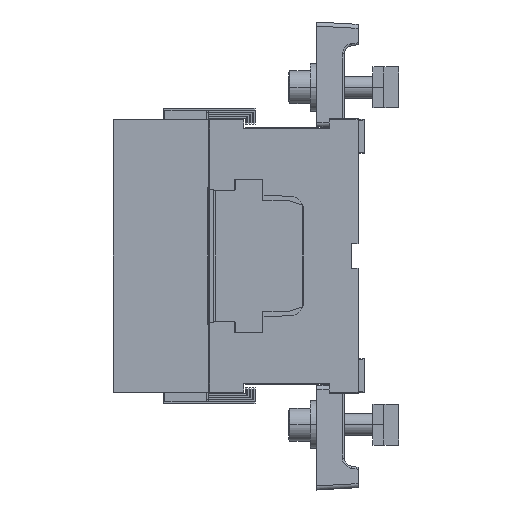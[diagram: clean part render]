
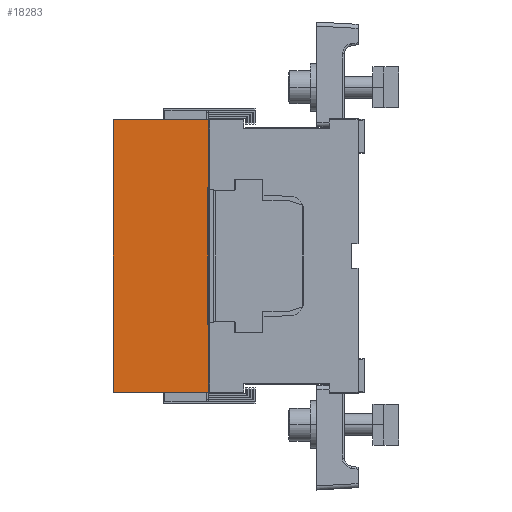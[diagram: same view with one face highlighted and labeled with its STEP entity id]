
A CAD part, left-side view. The second image highlights one B-rep face of the part: STEP entity #18283.
In plain terms, the highlighted planar face has unit normal (-1, 0, 0).
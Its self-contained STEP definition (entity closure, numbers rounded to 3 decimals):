
#401 = ORIENTED_EDGE ( 'NONE', *, *, #37491, .F. ) ;
#1191 = LINE ( 'NONE', #1543, #45969 ) ;
#1543 = CARTESIAN_POINT ( 'NONE',  ( -51., -8., 50. ) ) ;
#1614 = LINE ( 'NONE', #11810, #41466 ) ;
#2211 = VERTEX_POINT ( 'NONE', #35641 ) ;
#3841 = LINE ( 'NONE', #8567, #55009 ) ;
#6344 = LINE ( 'NONE', #28865, #18148 ) ;
#8567 = CARTESIAN_POINT ( 'NONE',  ( -51., 0., 100. ) ) ;
#10106 = EDGE_CURVE ( 'NONE', #2211, #45796, #53214, .T. ) ;
#10736 = EDGE_CURVE ( 'NONE', #48896, #45796, #26513, .T. ) ;
#11810 = CARTESIAN_POINT ( 'NONE',  ( -51., -8., -50. ) ) ;
#11828 = AXIS2_PLACEMENT_3D ( 'NONE', #31290, #25832, #49752 ) ;
#12073 = DIRECTION ( 'NONE',  ( 0., -1., 0. ) ) ;
#13680 = LINE ( 'NONE', #63780, #40100 ) ;
#14574 = EDGE_CURVE ( 'NONE', #48896, #43888, #1614, .T. ) ;
#14754 = DIRECTION ( 'NONE',  ( 0., 0., 1. ) ) ;
#14879 = CARTESIAN_POINT ( 'NONE',  ( -51., 70., 100. ) ) ;
#15316 = ORIENTED_EDGE ( 'NONE', *, *, #10736, .F. ) ;
#18148 = VECTOR ( 'NONE', #40800, 1000. ) ;
#18283 = ADVANCED_FACE ( 'NONE', ( #47603 ), #69755, .F. ) ;
#19995 = DIRECTION ( 'NONE',  ( 0., 0., -1. ) ) ;
#20650 = CARTESIAN_POINT ( 'NONE',  ( -51., 0., -50. ) ) ;
#21590 = DIRECTION ( 'NONE',  ( 0., -1., 0. ) ) ;
#24202 = ORIENTED_EDGE ( 'NONE', *, *, #46839, .F. ) ;
#25832 = DIRECTION ( 'NONE',  ( 1., 0., 0. ) ) ;
#26513 = LINE ( 'NONE', #54093, #35780 ) ;
#26776 = ORIENTED_EDGE ( 'NONE', *, *, #10106, .T. ) ;
#28299 = ORIENTED_EDGE ( 'NONE', *, *, #14574, .T. ) ;
#28751 = VECTOR ( 'NONE', #21590, 1000. ) ;
#28865 = CARTESIAN_POINT ( 'NONE',  ( -51., 0., 100. ) ) ;
#31290 = CARTESIAN_POINT ( 'NONE',  ( -51., 0., 100. ) ) ;
#34802 = CARTESIAN_POINT ( 'NONE',  ( -51., 70., 100. ) ) ;
#35641 = CARTESIAN_POINT ( 'NONE',  ( -51., 70., -100. ) ) ;
#35780 = VECTOR ( 'NONE', #70816, 1000. ) ;
#37491 = EDGE_CURVE ( 'NONE', #54132, #61486, #6344, .T. ) ;
#37693 = LINE ( 'NONE', #14879, #51788 ) ;
#37776 = EDGE_CURVE ( 'NONE', #55589, #52465, #1191, .T. ) ;
#39166 = ORIENTED_EDGE ( 'NONE', *, *, #48001, .T. ) ;
#39720 = CARTESIAN_POINT ( 'NONE',  ( -51., 0.3, 50. ) ) ;
#40100 = VECTOR ( 'NONE', #14754, 1000. ) ;
#40545 = CARTESIAN_POINT ( 'NONE',  ( -51., 0., -100. ) ) ;
#40800 = DIRECTION ( 'NONE',  ( 0., -1., 0. ) ) ;
#41466 = VECTOR ( 'NONE', #46579, 1000. ) ;
#43510 = ORIENTED_EDGE ( 'NONE', *, *, #37776, .T. ) ;
#43888 = VERTEX_POINT ( 'NONE', #53505 ) ;
#45796 = VERTEX_POINT ( 'NONE', #40545 ) ;
#45969 = VECTOR ( 'NONE', #12073, 1000. ) ;
#46579 = DIRECTION ( 'NONE',  ( 0., 1., 0. ) ) ;
#46839 = EDGE_CURVE ( 'NONE', #61486, #52465, #3841, .T. ) ;
#47603 = FACE_OUTER_BOUND ( 'NONE', #59523, .T. ) ;
#48001 = EDGE_CURVE ( 'NONE', #43888, #55589, #13680, .T. ) ;
#48896 = VERTEX_POINT ( 'NONE', #20650 ) ;
#49752 = DIRECTION ( 'NONE',  ( 0., 1., 0. ) ) ;
#51180 = CARTESIAN_POINT ( 'NONE',  ( -51., 0., 50. ) ) ;
#51788 = VECTOR ( 'NONE', #19995, 1000. ) ;
#52465 = VERTEX_POINT ( 'NONE', #51180 ) ;
#53214 = LINE ( 'NONE', #53567, #28751 ) ;
#53505 = CARTESIAN_POINT ( 'NONE',  ( -51., 0.3, -50. ) ) ;
#53567 = CARTESIAN_POINT ( 'NONE',  ( -51., 0., -100. ) ) ;
#54093 = CARTESIAN_POINT ( 'NONE',  ( -51., 0., 100. ) ) ;
#54132 = VERTEX_POINT ( 'NONE', #34802 ) ;
#55009 = VECTOR ( 'NONE', #59054, 1000. ) ;
#55589 = VERTEX_POINT ( 'NONE', #39720 ) ;
#59054 = DIRECTION ( 'NONE',  ( 0., 0., -1. ) ) ;
#59523 = EDGE_LOOP ( 'NONE', ( #39166, #43510, #24202, #401, #68084, #26776, #15316, #28299 ) ) ;
#61486 = VERTEX_POINT ( 'NONE', #65990 ) ;
#63780 = CARTESIAN_POINT ( 'NONE',  ( -51., 0.3, 50. ) ) ;
#65990 = CARTESIAN_POINT ( 'NONE',  ( -51., 0., 100. ) ) ;
#68084 = ORIENTED_EDGE ( 'NONE', *, *, #69047, .T. ) ;
#69047 = EDGE_CURVE ( 'NONE', #54132, #2211, #37693, .T. ) ;
#69755 = PLANE ( 'NONE',  #11828 ) ;
#70816 = DIRECTION ( 'NONE',  ( 0., 0., -1. ) ) ;
